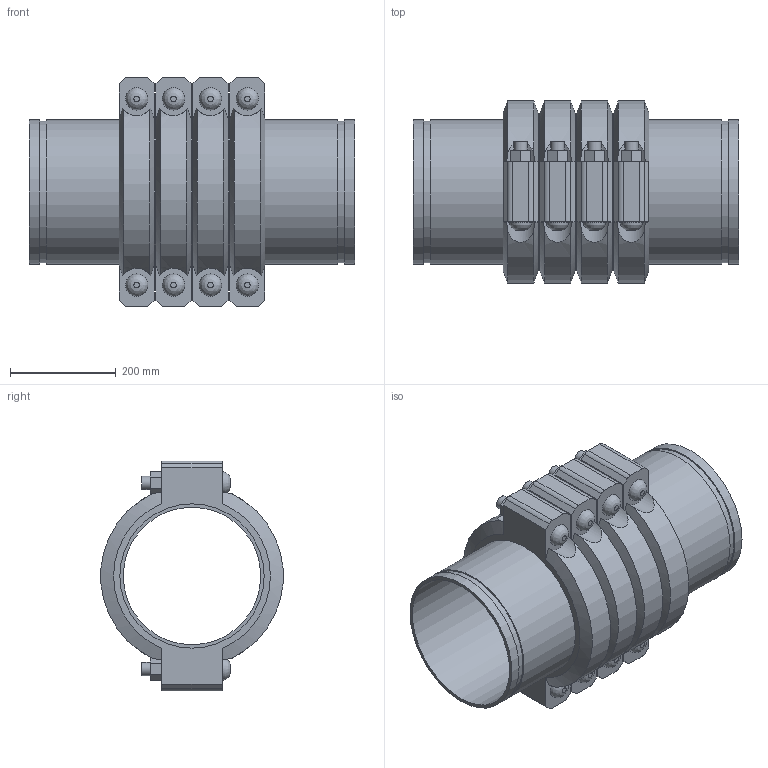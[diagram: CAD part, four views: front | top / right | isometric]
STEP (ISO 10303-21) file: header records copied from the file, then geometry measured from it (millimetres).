
FILE_DESCRIPTION(/* description */ ('VIC SS EXPANSION JOINT 4 COUPLINGS COMPRESSED STYLE 155P (OGS) (POTABLE WATER) ','CAx-IF Rec.Pracs.---Representation and Presentation of Product Manufacturing Information (PMI)---4.0---2014-10-13'),/* implementation_level */ '2;1');
FILE_NAME(/* name */ 'C:\Users\kkamble\AppData\Roaming\Autodesk\ApplicationPlugins\Victaulic.Temp\A932\Victaulic_SS_Expansion Joint_Compressed_4 Couplings_Style 155P (OGS)-Potable Water_4 Coup_Comp_10 (250).stp',/* time_stamp */ '2021-07-16T17:12:23+06:00',/* author */ ('kkamble'),/* organization */ ('Victaulic'),/* preprocessor_version */ 'ST-DEVELOPER v17.2',/* originating_system */ 'Autodesk Inventor 2019',/* authorisation */ '');
FILE_SCHEMA (('AP242_MANAGED_MODEL_BASED_3D_ENGINEERING_MIM_LF { 1 0 10303 442 1 1 4 }'));
Length unit declared in the file: inch
Products named in the file (4): 155P-10.0; Nipple-10.0; Nipple-10.0_1; 077-10.0
Assembly tree (9 placements, depth 2):
  155P-10.0
    Nipple-10.0  x2
    Nipple-10.0_1  x3
    077-10.0  x4
Bounding box: 615.95 x 344.9 x 435.1 mm (x, y, z)
Volume: 14706619.4 mm3; surface area: 2215246.2 mm2
Topology: 9 solids, 17 shells, 288 faces, 706 edges, 496 vertices
Faces by surface type: plane 166, cylinder 98, cone 16, bspline 8
Full cylindrical faces by diameter (mm): 25.4 x16, 27.432 x8, 260.35 x5, 268.275 x10, 273.05 x19
Entity records: 2945 total; most frequent: CARTESIAN_POINT 659, DIRECTION 455, ORIENTED_EDGE 398, EDGE_CURVE 199, AXIS2_PLACEMENT_3D 184, VERTEX_POINT 142, EDGE_LOOP 105, CIRCLE 92
